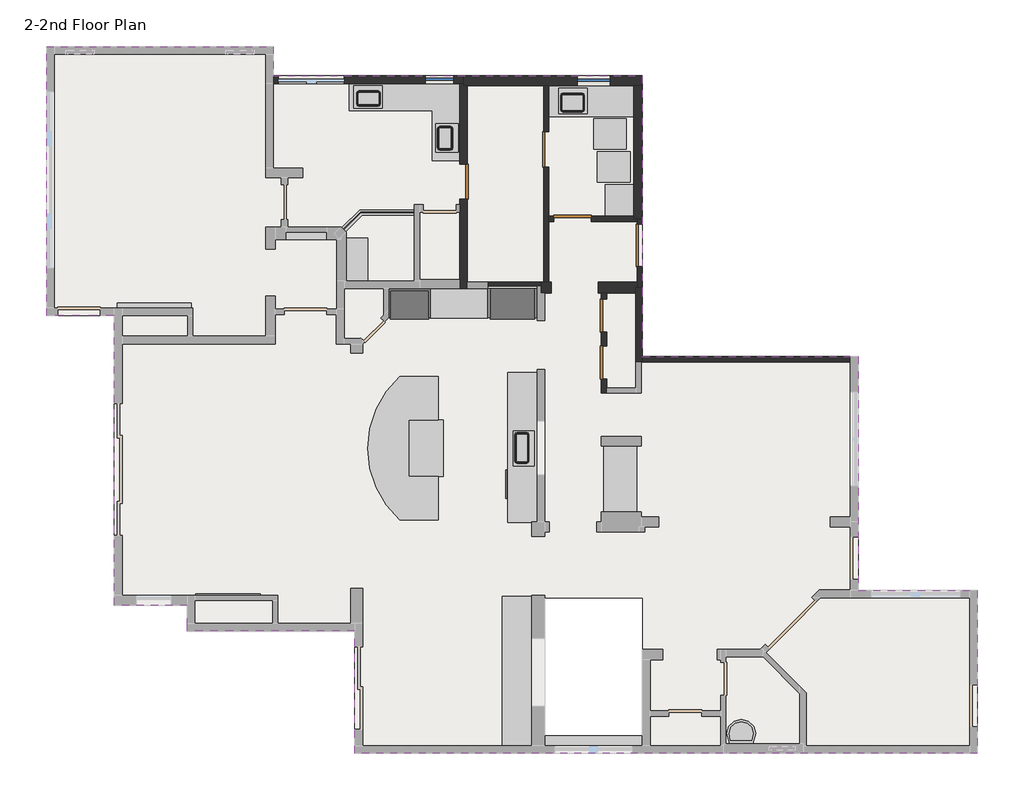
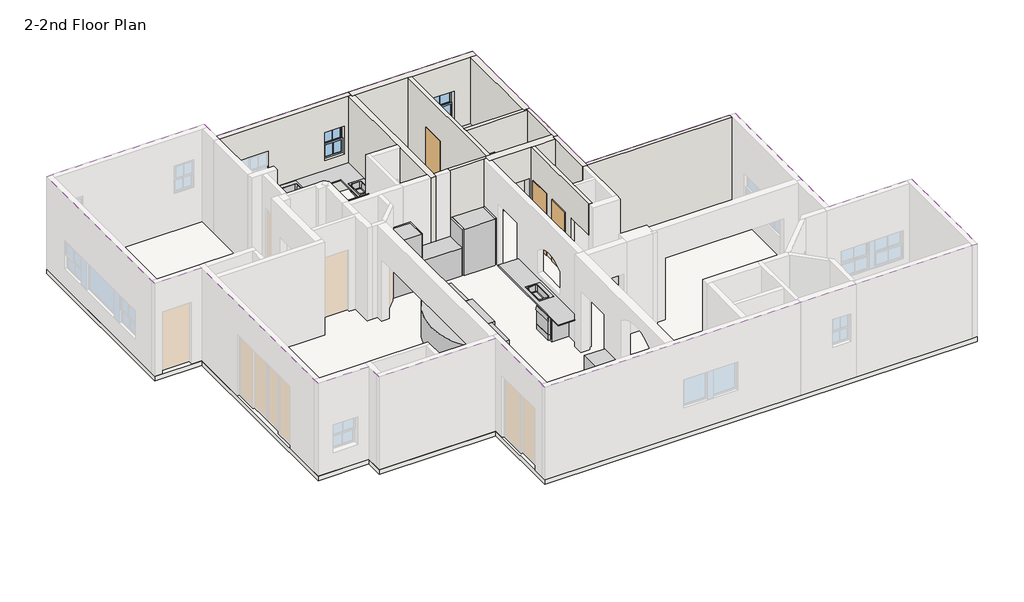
# One storey, part 3 of 3: 12 proxies, 12 walls, 10 furniture elements, 6 doors, 6 flow terminals, 2 windows, 1 covering, 1 slab.
"""IFC4 building model written with IfcOpenShell, lengths in millimetres."""

from ifc_helpers import new_model, si_unit, frame, origin, place, context, project, spatial, polyline, outline, extrude, faceted_brep, transform, mapped, element, save
from components import generic_models_10_generic_models_10_4ac16e84, generic_models_3_generic_models_3_54da6a1e, generic_models_4_generic_models_4_86da2cf7, generic_models_6_generic_models_6_da21bc6a, generic_models_7_generic_models_7_cedf5fbd, generic_models_8_generic_models_8_85dfdc42, generic_models_9_generic_models_6_f3774412, specialty_equipment_1_specialty_equipment_1_6cf6217c, specialty_equipment_3_specialty_equipment_3_975726c7, specialty_equipment_4_specialty_equipment_4_003a8ce4, specialty_equipment_6_specialty_equipment_5_ca1720f7, door_64bc458f, door_ae451de5, door_50b9832b, door_c53031d2, door_eaf6c470, flow_terminal_c128aac0, c_kitchen_sink_single_c_kitchen_sink_single_6c047c32, c_kitchen_sink_single_c_kitchen_sink_single_3_226f43ff, c_kitchen_sink_single_c_kitchen_sink_single_4_a6143ec4, plumbing_fixtures_1_plumbing_fixtures_1_25a78d79, casework_11_casework_11_a0dce881, casework_2_casework_2_51e8f1bf, casework_3_casework_3_68b1cbf8, casework_6_casework_6_0ef7add9, casework_7_casework_7_954245c9, casework_8_casework_8_02e97182, casework_9_casework_9_592b6bdc, window_5398d301, window_f0850236

model = new_model("IFC4")

# Units and contexts
model_context = context("Model", 3, world=origin())
ifc_project = project(units=[si_unit("LENGTHUNIT", "METRE", prefix="MILLI")], contexts=[model_context])

# Site, building, storey
site = spatial("IfcSite", under=ifc_project)
building = spatial("IfcBuilding", under=site)
storey = spatial("IfcBuildingStorey", under=building, Name="2-2nd Floor Plan", Elevation=3348.0)

# Proxies
placement = place(None, origin())
generic_models_10_generic_models_10_shape = generic_models_10_generic_models_10_4ac16e84(model_context)
element("IfcBuildingElementProxy", 1, Name="Generic Models 10 : Generic Models 10", ObjectType="Generic Models 10 : Generic Models 10", at=placement, inside=storey, context=model_context, shape_type="MappedRepresentation", body=[
    mapped(generic_models_10_generic_models_10_shape, transform((0.0, 0.0, 0.0), x_axis=(1.0, 0.0, 0.0), y_axis=(0.0, 1.0, 0.0), z_axis=(0.0, 0.0, 1.0))),
])
generic_models_3_generic_models_3_shape = generic_models_3_generic_models_3_54da6a1e(model_context)
element("IfcBuildingElementProxy", 2, Name="Generic Models 3 : Generic Models 3", ObjectType="Generic Models 3 : Generic Models 3", at=placement, inside=storey, context=model_context, shape_type="MappedRepresentation", body=[
    mapped(generic_models_3_generic_models_3_shape, transform((0.0, 0.0, 0.0), x_axis=(1.0, 0.0, 0.0), y_axis=(0.0, 1.0, 0.0), z_axis=(0.0, 0.0, 1.0))),
])
generic_models_4_generic_models_4_shape = generic_models_4_generic_models_4_86da2cf7(model_context)
element("IfcBuildingElementProxy", 3, Name="Generic Models 4 : Generic Models 4", ObjectType="Generic Models 4 : Generic Models 4", at=placement, inside=storey, context=model_context, shape_type="MappedRepresentation", body=[
    mapped(generic_models_4_generic_models_4_shape, transform((0.0, 0.0, 0.0), x_axis=(1.0, 0.0, 0.0), y_axis=(0.0, 1.0, 0.0), z_axis=(0.0, 0.0, 1.0))),
])
generic_models_6_generic_models_6_shape = generic_models_6_generic_models_6_da21bc6a(model_context)
element("IfcBuildingElementProxy", 4, Name="Generic Models 6 : Generic Models 6", ObjectType="Generic Models 6 : Generic Models 6", at=placement, inside=storey, context=model_context, shape_type="MappedRepresentation", body=[
    mapped(generic_models_6_generic_models_6_shape, transform((0.0, 0.0, 0.0), x_axis=(1.0, 0.0, 0.0), y_axis=(0.0, 1.0, 0.0), z_axis=(0.0, 0.0, 1.0))),
])
generic_models_7_generic_models_7_shape = generic_models_7_generic_models_7_cedf5fbd(model_context)
element("IfcBuildingElementProxy", 5, Name="Generic Models 7 : Generic Models 7", ObjectType="Generic Models 7 : Generic Models 7", at=placement, inside=storey, context=model_context, shape_type="MappedRepresentation", body=[
    mapped(generic_models_7_generic_models_7_shape, transform((0.0, 0.0, 0.0), x_axis=(1.0, 0.0, 0.0), y_axis=(0.0, 1.0, 0.0), z_axis=(0.0, 0.0, 1.0))),
])
generic_models_8_generic_models_8_shape = generic_models_8_generic_models_8_85dfdc42(model_context)
element("IfcBuildingElementProxy", 6, Name="Generic Models 8 : Generic Models 8", ObjectType="Generic Models 8 : Generic Models 8", at=placement, inside=storey, context=model_context, shape_type="MappedRepresentation", body=[
    mapped(generic_models_8_generic_models_8_shape, transform((0.0, 0.0, 0.0), x_axis=(1.0, 0.0, 0.0), y_axis=(0.0, 1.0, 0.0), z_axis=(0.0, 0.0, 1.0))),
])
generic_models_9_generic_models_6_shape = generic_models_9_generic_models_6_f3774412(model_context)
element("IfcBuildingElementProxy", 7, Name="Generic Models 9 : Generic Models 6", ObjectType="Generic Models 9 : Generic Models 6", at=placement, inside=storey, context=model_context, shape_type="MappedRepresentation", body=[
    mapped(generic_models_9_generic_models_6_shape, transform((0.0, 0.0, 0.0), x_axis=(1.0, 0.0, 0.0), y_axis=(0.0, 1.0, 0.0), z_axis=(0.0, 0.0, 1.0))),
])
specialty_equipment_1_specialty_equipment_1_shape = specialty_equipment_1_specialty_equipment_1_6cf6217c(model_context)
element("IfcBuildingElementProxy", 8, Name="Specialty Equipment 1 : Specialty Equipment 1", ObjectType="Specialty Equipment 1 : Specialty Equipment 1", at=placement, inside=storey, context=model_context, shape_type="MappedRepresentation", body=[
    mapped(specialty_equipment_1_specialty_equipment_1_shape, transform((0.0, 0.0, 0.0), x_axis=(1.0, 0.0, 0.0), y_axis=(0.0, 1.0, 0.0), z_axis=(0.0, 0.0, 1.0))),
])
element("IfcBuildingElementProxy", 9, Name="Specialty Equipment 2 : Specialty Equipment 1", ObjectType="Specialty Equipment 2 : Specialty Equipment 1", at=placement, inside=storey, context=model_context, shape_type="MappedRepresentation", body=[
    mapped(specialty_equipment_1_specialty_equipment_1_shape, transform((76.2, -711.1999987, 0.0), x_axis=(1.0, 0.0, 0.0), y_axis=(0.0, 1.0, 0.0), z_axis=(0.0, 0.0, 1.0))),
])
specialty_equipment_3_specialty_equipment_3_shape = specialty_equipment_3_specialty_equipment_3_975726c7(model_context)
element("IfcBuildingElementProxy", 10, Name="Specialty Equipment 3 : Specialty Equipment 3", ObjectType="Specialty Equipment 3 : Specialty Equipment 3", at=placement, inside=storey, context=model_context, shape_type="MappedRepresentation", body=[
    mapped(specialty_equipment_3_specialty_equipment_3_shape, transform((0.0, 0.0, 0.0), x_axis=(1.0, 0.0, 0.0), y_axis=(0.0, 1.0, 0.0), z_axis=(0.0, 0.0, 1.0))),
])
specialty_equipment_4_specialty_equipment_4_shape = specialty_equipment_4_specialty_equipment_4_003a8ce4(model_context)
element("IfcBuildingElementProxy", 11, Name="Specialty Equipment 4 : Specialty Equipment 4", ObjectType="Specialty Equipment 4 : Specialty Equipment 4", at=placement, inside=storey, context=model_context, shape_type="MappedRepresentation", body=[
    mapped(specialty_equipment_4_specialty_equipment_4_shape, transform((0.0, 0.0, 0.0), x_axis=(1.0, 0.0, 0.0), y_axis=(0.0, 1.0, 0.0), z_axis=(0.0, 0.0, 1.0))),
])
specialty_equipment_6_specialty_equipment_5_shape = specialty_equipment_6_specialty_equipment_5_ca1720f7(model_context)
element("IfcBuildingElementProxy", 12, Name="Specialty Equipment 6 : Specialty Equipment 5", ObjectType="Specialty Equipment 6 : Specialty Equipment 5", at=placement, inside=storey, context=model_context, shape_type="MappedRepresentation", body=[
    mapped(specialty_equipment_6_specialty_equipment_5_shape, transform((0.0, 0.0, 0.0), x_axis=(1.0, 0.0, 0.0), y_axis=(0.0, 1.0, 0.0), z_axis=(0.0, 0.0, 1.0))),
])

# Covering
element("IfcCovering", 13, ObjectType="Ceiling_5.9\"", at=placement, inside=storey, context=model_context, shape_type="SweptSolid", body=[
    extrude(outline(polyline([(-6661.15, 9461.5), (-6661.15, 15278.1), (-1758.95, 15278.1), (-1758.95, 14642.9947939), (6210.3, 14642.9947939), (6210.3, 10064.6447939), (6210.3, 8572.5), (10871.2, 8572.5), (10871.2, 3524.25), (13449.3, 3524.25), (13449.3, 0.0), (0.0, 0.0), (0.0, 2641.6), (-3619.5, 2641.6), (-3619.5, 3200.4), (-5194.3, 3200.4), (-5194.3, 9461.5), (-6661.15, 9461.5)])), frame((0.0, 0.0, 6396.0), z_axis=(0.0, 0.0, 1.0), x_axis=(1.0, 0.0, 0.0)), (0.0, 0.0, 1.0), 150.0),
])

# Doors
door_shape = door_64bc458f(model_context)
element("IfcDoor", 14, ObjectType="Door_1 : 2'-4\" X 6'-8\"", at=placement, inside=storey, context=model_context, shape_type="MappedRepresentation", body=[
    mapped(door_shape, transform((5378.45, 9461.3947939, 3348.0), x_axis=(0.0, -1.0, 0.0), y_axis=(1.0, 0.0, 0.0), z_axis=(0.0, 0.0, 1.0))),
])
element("IfcDoor", 15, ObjectType="Door_1 : 2'-4\" X 6'-8\"", at=placement, inside=storey, context=model_context, shape_type="MappedRepresentation", body=[
    mapped(door_shape, transform((5378.45, 8445.3947939, 3348.0), x_axis=(0.0, -1.0, 0.0), y_axis=(1.0, 0.0, 0.0), z_axis=(0.0, 0.0, 1.0))),
])
door_2_shape = door_ae451de5(model_context)
element("IfcDoor", 16, ObjectType="Door_1 : 2'-6\" X 6'-8\"", at=placement, inside=storey, context=model_context, shape_type="MappedRepresentation", body=[
    mapped(door_2_shape, transform((4133.85, 13055.4947939, 3348.0), x_axis=(0.0, 1.0, 0.0), y_axis=(-1.0, 0.0, 0.0), z_axis=(0.0, 0.0, 1.0))),
])
door_3_shape = door_50b9832b(model_context)
element("IfcDoor", 17, ObjectType="Door_1 : 2'-6\" X 6'-8\"", at=placement, inside=storey, context=model_context, shape_type="MappedRepresentation", body=[
    mapped(door_3_shape, transform((2343.15, 12356.9947939, 3348.0), x_axis=(0.0, -1.0, 0.0), y_axis=(1.0, 0.0, 0.0), z_axis=(0.0, 0.0, 1.0))),
])
door_4_shape = door_c53031d2(model_context)
element("IfcDoor", 18, ObjectType="Door_1 : 2'-8\" X 6'-8\"", at=placement, inside=storey, context=model_context, shape_type="MappedRepresentation", body=[
    mapped(door_4_shape, transform((4699.0, 11550.5447939, 3348.0), x_axis=(-1.0, 0.0, 0.0), y_axis=(0.0, -1.0, 0.0), z_axis=(0.0, 0.0, 1.0))),
])
door_5_shape = door_eaf6c470(model_context)
element("IfcDoor", 19, ObjectType="Door_1 : 3'-0\" X 6'-8\"", at=placement, inside=storey, context=model_context, shape_type="MappedRepresentation", body=[
    mapped(door_5_shape, transform((6153.15, 10979.0447939, 3348.0), x_axis=(0.0, 1.0, 0.0), y_axis=(-1.0, 0.0, 0.0), z_axis=(0.0, 0.0, 1.0))),
])

# Flow terminals
flow_terminal_shape = flow_terminal_c128aac0(model_context)
element("IfcFlowTerminal", 20, ObjectType="C_Dishwasher : 24\"x25 1/4\"", at=placement, inside=storey, context=model_context, shape_type="MappedRepresentation", body=[
    mapped(flow_terminal_shape, transform((3937.0, 5818.0822939, 3348.0), x_axis=(-1.0, 0.0, 0.0), y_axis=(0.0, -1.0, 0.0), z_axis=(0.0, 0.0, 1.0))),
])
c_kitchen_sink_single_c_kitchen_sink_single_shape = c_kitchen_sink_single_c_kitchen_sink_single_6c047c32(model_context)
element("IfcFlowTerminal", 21, ObjectType="C_Kitchen Sink Single : C_Kitchen Sink Single", at=placement, inside=storey, context=model_context, shape_type="MappedRepresentation", body=[
    mapped(c_kitchen_sink_single_c_kitchen_sink_single_shape, transform((34.5408031, 14189.7993928, 4211.6), x_axis=(-1.0, 0.0, 0.0), y_axis=(0.0, -1.0, 0.0), z_axis=(0.0, 0.0, 1.0))),
])
element("IfcFlowTerminal", 22, ObjectType="C_Kitchen Sink Single : C_Kitchen Sink Single", at=placement, inside=storey, context=model_context, shape_type="MappedRepresentation", body=[
    mapped(c_kitchen_sink_single_c_kitchen_sink_single_shape, transform((1985.2045989, 13555.1477408, 4211.6), x_axis=(0.0, 1.0, 0.0), y_axis=(-1.0, 0.0, 0.0), z_axis=(0.0, 0.0, 1.0))),
])
c_kitchen_sink_single_c_kitchen_sink_single_3_shape = c_kitchen_sink_single_c_kitchen_sink_single_3_226f43ff(model_context)
element("IfcFlowTerminal", 23, ObjectType="C_Kitchen Sink Single : C_Kitchen Sink Single 3", at=placement, inside=storey, context=model_context, shape_type="MappedRepresentation", body=[
    mapped(c_kitchen_sink_single_c_kitchen_sink_single_3_shape, transform((3642.5545989, 6263.9840344, 4249.7), x_axis=(0.0, -1.0, 0.0), y_axis=(1.0, 0.0, 0.0), z_axis=(0.0, 0.0, 1.0))),
])
c_kitchen_sink_single_c_kitchen_sink_single_4_shape = c_kitchen_sink_single_c_kitchen_sink_single_4_a6143ec4(model_context)
element("IfcFlowTerminal", 24, ObjectType="C_Kitchen Sink Single : C_Kitchen Sink Single 4", at=placement, inside=storey, context=model_context, shape_type="MappedRepresentation", body=[
    mapped(c_kitchen_sink_single_c_kitchen_sink_single_4_shape, transform((4962.7107594, 14100.8993928, 4198.9), x_axis=(1.0, 0.0, 0.0), y_axis=(0.0, 1.0, 0.0), z_axis=(0.0, 0.0, 1.0))),
])
plumbing_fixtures_1_plumbing_fixtures_1_shape = plumbing_fixtures_1_plumbing_fixtures_1_25a78d79(model_context)
element("IfcFlowTerminal", 25, ObjectType="Plumbing Fixtures 1 : Plumbing Fixtures 1", at=placement, inside=storey, context=model_context, shape_type="MappedRepresentation", body=[
    mapped(plumbing_fixtures_1_plumbing_fixtures_1_shape, transform((0.0, 0.0, 0.0), x_axis=(1.0, 0.0, 0.0), y_axis=(0.0, 1.0, 0.0), z_axis=(0.0, 0.0, 1.0))),
])

# Furniture
element("IfcFurniture", 26, ObjectType="C_Counter Top L : Counter Top", at=placement, inside=storey, context=model_context, shape_type="SweptSolid", body=[
    extrude(outline(polyline([(2260.6, 12814.1947939), (1676.4, 12814.1947939), (1676.4, 13893.6947939), (-127.0, 13893.6947939), (-127.0, 14477.8947939), (2260.6, 14477.8947939), (2260.6, 12814.1947939)]), holes=[polyline([(590.3515625, 14433.4447939), (-19.2484375, 14433.4447939), (-19.2484375, 13950.8447939), (590.3515625, 13950.8447939), (590.3515625, 14433.4447939)]), polyline([(2228.85, 12999.3369814), (2228.85, 13608.9369814), (1746.25, 13608.9369814), (1746.25, 12999.3369814), (2228.85, 12999.3369814)])]), frame((0.0, 0.0, 4186.2), z_axis=(0.0, 0.0, 1.0), x_axis=(1.0, 0.0, 0.0)), (0.0, 0.0, 1.0), 25.4),
])
element("IfcFurniture", 27, ObjectType="C_Counter Top Linear (without skirting) : C_Counter Top Linear (without skirting)", at=placement, inside=storey, context=model_context, shape_type="SweptSolid", body=[
    extrude(outline(polyline([(4191.0, 14427.0947939), (6019.8, 14427.0947939), (6019.8, 13766.6947939), (4191.0, 13766.6947939), (4191.0, 14427.0947939)]), holes=[polyline([(5016.5, 14382.6447939), (4406.9, 14382.6447939), (4406.9, 13823.8447939), (5016.5, 13823.8447939), (5016.5, 14382.6447939)])]), frame((0.0, 0.0, 4173.5), z_axis=(0.0, 0.0, 1.0), x_axis=(1.0, 0.0, 0.0)), (0.0, 0.0, 1.0), 38.1),
])
element("IfcFurniture", 28, ObjectType="C_Counter Top Linear (without skirting)_1 : C_Counter Top Linear (without skirting)", at=placement, inside=storey, context=model_context, shape_type="SweptSolid", body=[
    extrude(outline(polyline([(3302.0, 4990.9947939), (3302.0, 8229.4947939), (3937.0, 8229.4947939), (3937.0, 5003.6947939), (3822.7, 5003.6947939), (3822.7, 4990.9947939), (3302.0, 4990.9947939)]), holes=[polyline([(3873.5, 6210.1947939), (3873.5, 6972.1947939), (3416.3, 6972.1947939), (3416.3, 6210.1947939), (3873.5, 6210.1947939)])]), frame((0.0, 0.0, 4224.3), z_axis=(0.0, 0.0, 1.0), x_axis=(1.0, 0.0, 0.0)), (0.0, 0.0, 1.0), 38.1),
])
casework_11_casework_11_shape = casework_11_casework_11_a0dce881(model_context)
element("IfcFurniture", 29, ObjectType="Casework 11 : Casework 11", at=placement, inside=storey, context=model_context, shape_type="MappedRepresentation", body=[
    mapped(casework_11_casework_11_shape, transform((0.0, 0.0, 0.0), x_axis=(1.0, 0.0, 0.0), y_axis=(0.0, 1.0, 0.0), z_axis=(0.0, 0.0, 1.0))),
])
casework_2_casework_2_shape = casework_2_casework_2_51e8f1bf(model_context)
element("IfcFurniture", 30, ObjectType="Casework 2 : Casework 2", at=placement, inside=storey, context=model_context, shape_type="MappedRepresentation", body=[
    mapped(casework_2_casework_2_shape, transform((0.0, 0.0, 0.0), x_axis=(1.0, 0.0, 0.0), y_axis=(0.0, 1.0, 0.0), z_axis=(0.0, 0.0, 1.0))),
])
casework_3_casework_3_shape = casework_3_casework_3_68b1cbf8(model_context)
element("IfcFurniture", 31, ObjectType="Casework 3 : Casework 3", at=placement, inside=storey, context=model_context, shape_type="MappedRepresentation", body=[
    mapped(casework_3_casework_3_shape, transform((0.0, 0.0, 0.0), x_axis=(1.0, 0.0, 0.0), y_axis=(0.0, 1.0, 0.0), z_axis=(0.0, 0.0, 1.0))),
])
casework_6_casework_6_shape = casework_6_casework_6_0ef7add9(model_context)
element("IfcFurniture", 32, ObjectType="Casework 6 : Casework 6", at=placement, inside=storey, context=model_context, shape_type="MappedRepresentation", body=[
    mapped(casework_6_casework_6_shape, transform((0.0, 0.0, 0.0), x_axis=(1.0, 0.0, 0.0), y_axis=(0.0, 1.0, 0.0), z_axis=(0.0, 0.0, 1.0))),
])
casework_7_casework_7_shape = casework_7_casework_7_954245c9(model_context)
element("IfcFurniture", 33, ObjectType="Casework 7 : Casework 7", at=placement, inside=storey, context=model_context, shape_type="MappedRepresentation", body=[
    mapped(casework_7_casework_7_shape, transform((0.0, 0.0, 0.0), x_axis=(1.0, 0.0, 0.0), y_axis=(0.0, 1.0, 0.0), z_axis=(0.0, 0.0, 1.0))),
])
casework_8_casework_8_shape = casework_8_casework_8_02e97182(model_context)
element("IfcFurniture", 34, ObjectType="Casework 8 : Casework 8", at=placement, inside=storey, context=model_context, shape_type="MappedRepresentation", body=[
    mapped(casework_8_casework_8_shape, transform((0.0, 0.0, 0.0), x_axis=(1.0, 0.0, 0.0), y_axis=(0.0, 1.0, 0.0), z_axis=(0.0, 0.0, 1.0))),
])
casework_9_casework_9_shape = casework_9_casework_9_592b6bdc(model_context)
element("IfcFurniture", 35, ObjectType="Casework 9 : Casework 9", at=placement, inside=storey, context=model_context, shape_type="MappedRepresentation", body=[
    mapped(casework_9_casework_9_shape, transform((0.0, 0.0, 0.0), x_axis=(1.0, 0.0, 0.0), y_axis=(0.0, 1.0, 0.0), z_axis=(0.0, 0.0, 1.0))),
])

# Slab
element("IfcSlab", 36, ObjectType="Floor:Floor_5.9\"", at=placement, inside=storey, context=model_context, shape_type="SweptSolid", body=[
    extrude(outline(polyline([(-6661.15, 9461.5), (-6661.15, 15278.1), (-1758.95, 15278.1), (-1758.95, 14642.9947939), (6210.3, 14642.9947939), (6210.3, 10064.6447939), (6210.3, 8572.5), (10871.2, 8572.5), (10871.2, 3524.25), (13449.3, 3524.25), (13449.3, 0.0), (0.0, 0.0), (0.0, 2641.6), (-3619.5, 2641.6), (-3619.5, 3200.4), (-5194.3, 3200.4), (-5194.3, 9461.5), (-6661.15, 9461.5)]), holes=[polyline([(4102.1, 3352.8), (4102.1, 165.1), (6210.3, 165.1), (6210.3, 3352.8), (4102.1, 3352.8)])]), frame((0.0, 0.0, 3197.98125), z_axis=(0.0, 0.0, 1.0), x_axis=(1.0, 0.0, 0.0)), (0.0, 0.0, 1.0), 150.01875),
])

# Walls
element("IfcWall", 37, ObjectType="Wall_3.5\"", at=placement, inside=storey, context=model_context, shape_type="Brep", body=[
    faceted_brep([(2870.2, 10096.5, 3348.0), (3937.0, 10096.5, 3348.0), (4019.55, 10096.5, 3348.0), (4019.55, 10096.5, 6396.0), (3937.0, 10096.5, 6396.0), (2870.2, 10096.5, 6396.0), (2870.2, 10185.4, 3348.0), (2870.2, 10185.4, 6396.0), (4019.55, 10185.4, 6396.0), (4019.55, 10185.4, 3348.0)], [[[0, 1, 2, 3, 4, 5]], [[6, 7, 8, 9]], [[2, 1, 0, 6, 9]], [[3, 2, 9, 8]], [[5, 4, 3, 8, 7]], [[0, 5, 7, 6]]]),
])
element("IfcWall", 38, ObjectType="Wall_4.5\"", at=placement, inside=storey, context=model_context, shape_type="Brep", body=[
    faceted_brep([(6096.0, 11550.5447939, 3348.0), (6096.0, 11493.3947939, 3348.0), (6096.0, 11436.2447939, 3348.0), (6096.0, 11436.2447939, 5380.0), (6096.0, 10521.8447939, 5380.0), (6096.0, 10521.8447939, 3348.0), (6096.0, 10185.2947939, 3348.0), (6096.0, 10064.6447939, 3348.0), (6096.0, 10064.6447939, 6396.0), (6096.0, 10185.2947939, 6396.0), (6096.0, 11493.3947939, 6396.0), (6096.0, 11550.5447939, 6396.0), (6210.3, 11436.2447939, 5380.0), (6210.3, 11436.2447939, 3348.0), (6210.3, 11550.5447939, 3348.0), (6210.3, 11550.5447939, 6396.0), (6210.3, 10064.6447939, 6396.0), (6210.3, 10064.6447939, 3348.0), (6210.3, 10521.8447939, 3348.0), (6210.3, 10521.8447939, 5380.0)], [[[0, 1, 2, 3, 4, 5, 6, 7, 8, 9, 10, 11]], [[12, 13, 14, 15, 16, 17, 18, 19]], [[18, 17, 7, 6, 5]], [[14, 13, 2, 1, 0]], [[8, 7, 17, 16]], [[11, 10, 9, 8, 16, 15]], [[0, 11, 15, 14]], [[3, 2, 13, 12]], [[4, 3, 12, 19]], [[5, 4, 19, 18]]]),
])
element("IfcWall", 39, ObjectType="Wall_4.5\"", at=placement, inside=storey, context=model_context, shape_type="SweptSolid", body=[
    extrude(outline(polyline([(6210.3, 8572.5), (10706.1, 8572.5), (10706.1, 8458.2), (6210.3, 8458.2), (6210.3, 8572.5)])), frame((0.0, 0.0, 3348.0), z_axis=(0.0, 0.0, 1.0), x_axis=(1.0, 0.0, 0.0)), (0.0, 0.0, 1.0), 3048.0),
])
element("IfcWall", 40, ObjectType="Wall_4.5\"", at=placement, inside=storey, context=model_context, shape_type="Brep", body=[
    faceted_brep([(4076.7, 14427.0947939, 3348.0), (4076.7, 13436.4947939, 3348.0), (4076.7, 13436.4947939, 5380.0), (4076.7, 12674.4947939, 5380.0), (4076.7, 12674.4947939, 3348.0), (4076.7, 10185.2947939, 3348.0), (4076.7, 10185.2947939, 6396.0), (4076.7, 14427.0947939, 6396.0), (4191.0, 13436.4947939, 5380.0), (4191.0, 13436.4947939, 3348.0), (4191.0, 14427.0947939, 3348.0), (4191.0, 14427.0947939, 6396.0), (4191.0, 11607.6947939, 6396.0), (4191.0, 11493.3947939, 6396.0), (4191.0, 10185.2947939, 6396.0), (4191.0, 10185.2947939, 3348.0), (4191.0, 11493.3947939, 3348.0), (4191.0, 11607.6947939, 3348.0), (4191.0, 12674.4947939, 3348.0), (4191.0, 12674.4947939, 5380.0)], [[[0, 1, 2, 3, 4, 5, 6, 7]], [[8, 9, 10, 11, 12, 13, 14, 15, 16, 17, 18, 19]], [[10, 9, 1, 0]], [[18, 17, 16, 15, 5, 4]], [[7, 6, 14, 13, 12, 11]], [[0, 7, 11, 10]], [[2, 1, 9, 8]], [[3, 2, 8, 19]], [[4, 3, 19, 18]], [[6, 5, 15, 14]]]),
])
element("IfcWall", 41, ObjectType="Wall_4.5\"", at=placement, inside=storey, context=model_context, shape_type="Brep", body=[
    faceted_brep([(4292.6, 11607.6947939, 5380.0), (4292.6, 11607.6947939, 3348.0), (4191.0, 11607.6947939, 3348.0), (4191.0, 11607.6947939, 6396.0), (6019.8, 11607.6947939, 6396.0), (6019.8, 11607.6947939, 3348.0), (5105.4, 11607.6947939, 3348.0), (5105.4, 11607.6947939, 5380.0), (4191.0, 11493.3947939, 3348.0), (4292.6, 11493.3947939, 3348.0), (4292.6, 11493.3947939, 5380.0), (5105.4, 11493.3947939, 5380.0), (5105.4, 11493.3947939, 3348.0), (6096.0, 11493.3947939, 3348.0), (6096.0, 11493.3947939, 6396.0), (4191.0, 11493.3947939, 6396.0), (6019.8, 11550.5447939, 3348.0), (6096.0, 11550.5447939, 3348.0), (6096.0, 11550.5447939, 6396.0), (6019.8, 11550.5447939, 6396.0)], [[[0, 1, 2, 3, 4, 5, 6, 7]], [[8, 9, 10, 11, 12, 13, 14, 15]], [[6, 5, 16, 17, 13, 12]], [[2, 1, 9, 8]], [[4, 3, 15, 14, 18, 19]], [[5, 4, 19, 16]], [[19, 18, 17, 16]], [[18, 14, 13, 17]], [[3, 2, 8, 15]], [[10, 9, 1, 0]], [[11, 10, 0, 7]], [[12, 11, 7, 6]]]),
])
element("IfcWall", 42, ObjectType="Wall_4.5\"", at=placement, inside=storey, context=model_context, shape_type="Brep", body=[
    faceted_brep([(5435.6, 9943.9947939, 6396.0), (5435.6, 7899.2947939, 6396.0), (5435.6, 7784.9947939, 6396.0), (5435.6, 6845.1947939, 6396.0), (5435.6, 6845.1947939, 5380.0), (5435.6, 7784.9947939, 5380.0), (5435.6, 7784.9947939, 3348.0), (5435.6, 7899.2947939, 3348.0), (5435.6, 8089.7947939, 3348.0), (5435.6, 8089.7947939, 5380.0), (5435.6, 8800.9947939, 5380.0), (5435.6, 8800.9947939, 3348.0), (5435.6, 9105.7947939, 3348.0), (5435.6, 9105.7947939, 5380.0), (5435.6, 9816.9947939, 5380.0), (5435.6, 9816.9947939, 3348.0), (5435.6, 9943.9947939, 3348.0), (5321.3, 6845.1947939, 6396.0), (5321.3, 9943.9947939, 6396.0), (5321.3, 9943.9947939, 3348.0), (5321.3, 9816.9947939, 3348.0), (5321.3, 9816.9947939, 5380.0), (5321.3, 9105.7947939, 5380.0), (5321.3, 9105.7947939, 3348.0), (5321.3, 8800.9947939, 3348.0), (5321.3, 8800.9947939, 5380.0), (5321.3, 8089.7947939, 5380.0), (5321.3, 8089.7947939, 3348.0), (5321.3, 7784.9947939, 3348.0), (5321.3, 7784.9947939, 5380.0), (5321.3, 6845.1947939, 5380.0)], [[[0, 1, 2, 3, 4, 5, 6, 7, 8, 9, 10, 11, 12, 13, 14, 15, 16]], [[17, 18, 19, 20, 21, 22, 23, 24, 25, 26, 27, 28, 29, 30]], [[19, 16, 15, 20]], [[23, 12, 11, 24]], [[27, 8, 7, 6, 28]], [[3, 2, 1, 0, 18, 17]], [[0, 16, 19, 18]], [[15, 14, 21, 20]], [[14, 13, 22, 21]], [[13, 12, 23, 22]], [[11, 10, 25, 24]], [[10, 9, 26, 25]], [[9, 8, 27, 26]], [[3, 17, 30, 4]], [[29, 5, 4, 30]], [[5, 29, 28, 6]]]),
])
element("IfcWall", 43, ObjectType="Wall_5.5\"", at=placement, inside=storey, context=model_context, shape_type="Brep", body=[
    faceted_brep([(6070.6, 10064.6447939, 3348.0), (6070.6, 9943.9947939, 3348.0), (6070.6, 8458.2, 3348.0), (6070.6, 8458.2, 6396.0), (6070.6, 9943.9947939, 6396.0), (6070.6, 10064.6447939, 6396.0), (6210.3, 10064.6447939, 3348.0), (6210.3, 10064.6447939, 6396.0), (6210.3, 8572.5, 6396.0), (6210.3, 8458.2, 6396.0), (6210.3, 8458.2, 3348.0), (6210.3, 8572.5, 3348.0), (6096.0, 10064.6447939, 3348.0), (6184.8999991, 8458.2, 3348.0), (6184.8999991, 8458.2, 6396.0), (6096.0, 10064.6447939, 6396.0)], [[[0, 1, 2, 3, 4, 5]], [[6, 7, 8, 9, 10, 11]], [[2, 1, 0, 12, 6, 11, 10, 13]], [[5, 4, 3, 14, 9, 8, 7, 15]], [[0, 5, 15, 7, 6, 12]], [[3, 2, 13, 10, 9, 14]]]),
])
element("IfcWall", 44, ObjectType="Wall_6.5\"", at=placement, inside=storey, context=model_context, shape_type="Brep", body=[
    faceted_brep([(-1758.95, 14477.8947939, 3348.0), (2260.6, 14477.8947939, 3348.0), (2343.15, 14477.8947939, 3348.0), (2343.15, 14477.8947939, 6396.0), (2260.6, 14477.8947939, 6396.0), (-1758.95, 14477.8947939, 6396.0), (1524.0, 14477.8947939, 5456.2), (2133.6, 14477.8947939, 5456.2), (2133.6, 14477.8947939, 4541.8), (1524.0, 14477.8947939, 4541.8), (-1651.0, 14477.8947939, 5456.2), (-228.6, 14477.8947939, 5456.2), (-228.6, 14477.8947939, 4541.8), (-1651.0, 14477.8947939, 4541.8), (-1758.95, 14642.9947939, 3348.0), (-1758.95, 14642.9947939, 6396.0), (2343.15, 14642.9947939, 6396.0), (2343.15, 14642.9947939, 3348.0), (1524.0, 14642.9947939, 5456.2), (1524.0, 14642.9947939, 4541.8), (2133.6, 14642.9947939, 4541.8), (2133.6, 14642.9947939, 5456.2), (-1651.0, 14642.9947939, 5456.2), (-1651.0, 14642.9947939, 4541.8), (-228.6, 14642.9947939, 4541.8), (-228.6, 14642.9947939, 5456.2)], [[[0, 1, 2, 3, 4, 5], [6, 7, 8, 9], [10, 11, 12, 13]], [[14, 15, 16, 17], [18, 19, 20, 21], [22, 23, 24, 25]], [[2, 1, 0, 14, 17]], [[3, 2, 17, 16]], [[5, 4, 3, 16, 15]], [[0, 5, 15, 14]], [[19, 18, 6, 9]], [[20, 19, 9, 8]], [[21, 20, 8, 7]], [[18, 21, 7, 6]], [[23, 22, 10, 13]], [[24, 23, 13, 12]], [[25, 24, 12, 11]], [[22, 25, 11, 10]]]),
])
element("IfcWall", 45, ObjectType="Wall_6.5\"", at=placement, inside=storey, context=model_context, shape_type="Brep", body=[
    faceted_brep([(2425.7, 10045.7, 3348.0), (2425.7, 10185.4, 3348.0), (2425.7, 11975.9947939, 3348.0), (2425.7, 11975.9947939, 5380.0), (2425.7, 12737.9947939, 5380.0), (2425.7, 12737.9947939, 3348.0), (2425.7, 14427.0947939, 3348.0), (2425.7, 14427.0947939, 6396.0), (2425.7, 10185.4, 6396.0), (2425.7, 10045.7, 6396.0), (2260.6, 11975.9947939, 5380.0), (2260.6, 11975.9947939, 3348.0), (2260.6, 11861.6947939, 3348.0), (2260.6, 11696.5947939, 3348.0), (2260.6, 10236.2, 3348.0), (2260.6, 10045.7, 3348.0), (2260.6, 10045.7, 6396.0), (2260.6, 10236.2, 6396.0), (2260.6, 11696.5947939, 6396.0), (2260.6, 11861.6947939, 6396.0), (2260.6, 14477.8947939, 6396.0), (2260.6, 14477.8947939, 3348.0), (2260.6, 12737.9947939, 3348.0), (2260.6, 12737.9947939, 5380.0), (2343.15, 14477.8947939, 3348.0), (2343.15, 14427.0947939, 3348.0), (2343.15, 14427.0947939, 6396.0), (2343.15, 14477.8947939, 6396.0)], [[[0, 1, 2, 3, 4, 5, 6, 7, 8, 9]], [[10, 11, 12, 13, 14, 15, 16, 17, 18, 19, 20, 21, 22, 23]], [[22, 21, 24, 25, 6, 5]], [[15, 14, 13, 12, 11, 2, 1, 0]], [[9, 8, 7, 26, 27, 20, 19, 18, 17, 16]], [[0, 9, 16, 15]], [[7, 6, 25, 26]], [[25, 24, 27, 26]], [[24, 21, 20, 27]], [[3, 2, 11, 10]], [[4, 3, 10, 23]], [[5, 4, 23, 22]]]),
])
element("IfcWall", 46, ObjectType="Wall_7.5\"", at=placement, inside=storey, context=model_context, shape_type="Brep", body=[
    faceted_brep([(6019.8, 14427.0947939, 3348.0), (6019.8, 11607.6947939, 3348.0), (6019.8, 11550.5447939, 3348.0), (6019.8, 11550.5447939, 6396.0), (6019.8, 11607.6947939, 6396.0), (6019.8, 14427.0947939, 6396.0), (6019.8, 13449.1947939, 4364.0), (6019.8, 13652.3947939, 4364.0), (6019.8, 13652.3947939, 4516.4), (6019.8, 13449.1947939, 4516.4), (6210.3, 11550.5447939, 3348.0), (6210.3, 14427.0947939, 3348.0), (6210.3, 14427.0947939, 6396.0), (6210.3, 11550.5447939, 6396.0), (6096.0, 11550.5447939, 3348.0), (6096.0, 11550.5447939, 6396.0), (6096.0, 13449.1947939, 4364.0), (6096.0, 13652.3947939, 4364.0), (6096.0, 13652.3947939, 4516.4), (6096.0, 13449.1947939, 4516.4)], [[[0, 1, 2, 3, 4, 5], [6, 7, 8, 9]], [[10, 11, 12, 13]], [[2, 1, 0, 11, 10, 14]], [[3, 2, 14, 10, 13, 15]], [[5, 4, 3, 15, 13, 12]], [[0, 5, 12, 11]], [[6, 16, 17, 7]], [[8, 18, 19, 9]], [[16, 6, 9, 19]], [[17, 16, 19, 18]], [[7, 17, 18, 8]]]),
])
element("IfcWall", 47, ObjectType="Wall_8.5\"", at=placement, inside=storey, context=model_context, shape_type="Brep", body=[
    faceted_brep([(2343.15, 14427.0947939, 3348.0), (2425.7, 14427.0947939, 3348.0), (4076.7, 14427.0947939, 3348.0), (4191.0, 14427.0947939, 3348.0), (6019.8, 14427.0947939, 3348.0), (6210.3, 14427.0947939, 3348.0), (6210.3, 14427.0947939, 6396.0), (6019.8, 14427.0947939, 6396.0), (4191.0, 14427.0947939, 6396.0), (4076.7, 14427.0947939, 6396.0), (2425.7, 14427.0947939, 6396.0), (2343.15, 14427.0947939, 6396.0), (4800.6, 14427.0947939, 5456.2), (5511.8, 14427.0947939, 5456.2), (5511.8, 14427.0947939, 4541.8), (4800.6, 14427.0947939, 4541.8), (2343.15, 14642.9947939, 3348.0), (2343.15, 14642.9947939, 6396.0), (6210.3, 14642.9947939, 6396.0), (6210.3, 14642.9947939, 3348.0), (4800.6, 14642.9947939, 5456.2), (4800.6, 14642.9947939, 4541.8), (5511.8, 14642.9947939, 4541.8), (5511.8, 14642.9947939, 5456.2), (2343.15, 14477.8947939, 3348.0), (2343.15, 14477.8947939, 6396.0)], [[[0, 1, 2, 3, 4, 5, 6, 7, 8, 9, 10, 11], [12, 13, 14, 15]], [[16, 17, 18, 19], [20, 21, 22, 23]], [[5, 4, 3, 2, 1, 0, 24, 16, 19]], [[11, 10, 9, 8, 7, 6, 18, 17, 25]], [[0, 11, 25, 17, 16, 24]], [[6, 5, 19, 18]], [[21, 20, 12, 15]], [[22, 21, 15, 14]], [[23, 22, 14, 13]], [[20, 23, 13, 12]]]),
])
element("IfcWall", 48, ObjectType="Wall_9.5\"", at=placement, inside=storey, context=model_context, shape_type="Brep", body=[
    faceted_brep([(6096.0, 10185.2947939, 3348.0), (5257.8, 10185.2947939, 3348.0), (5257.8, 10185.2947939, 5380.0), (4241.8, 10185.2947939, 5380.0), (4241.8, 10185.2947939, 3348.0), (4191.0, 10185.2947939, 3348.0), (4076.7, 10185.2947939, 3348.0), (4019.55, 10185.2947939, 3348.0), (4019.55, 10185.2947939, 6396.0), (4076.7, 10185.2947939, 6396.0), (4191.0, 10185.2947939, 6396.0), (6096.0, 10185.2947939, 6396.0), (5257.8, 9943.9947939, 5380.0), (5257.8, 9943.9947939, 3348.0), (5321.3, 9943.9947939, 3348.0), (5435.6, 9943.9947939, 3348.0), (6070.6, 9943.9947939, 3348.0), (6070.6, 9943.9947939, 6396.0), (5435.6, 9943.9947939, 6396.0), (5321.3, 9943.9947939, 6396.0), (4102.1, 9943.9947939, 6396.0), (4019.55, 9943.9947939, 6396.0), (4019.55, 9943.9947939, 3348.0), (4102.1, 9943.9947939, 3348.0), (4241.8, 9943.9947939, 3348.0), (4241.8, 9943.9947939, 5380.0), (4019.55, 10096.5, 3348.0), (6096.0, 10064.6447939, 3348.0), (6070.6, 10064.6447939, 3348.0), (4019.55, 10096.5, 6396.0), (6070.6, 10064.6447939, 6396.0), (6096.0, 10064.6447939, 6396.0)], [[[0, 1, 2, 3, 4, 5, 6, 7, 8, 9, 10, 11]], [[12, 13, 14, 15, 16, 17, 18, 19, 20, 21, 22, 23, 24, 25]], [[24, 23, 22, 26, 7, 6, 5, 4]], [[16, 15, 14, 13, 1, 0, 27, 28]], [[8, 7, 26, 22, 21, 29]], [[11, 10, 9, 8, 29, 21, 20, 19, 18, 17, 30, 31]], [[0, 11, 31, 27]], [[31, 30, 28, 27]], [[30, 17, 16, 28]], [[2, 1, 13, 12]], [[4, 3, 25, 24]], [[3, 2, 12, 25]]]),
])

# Windows
window_shape = window_5398d301(model_context)
element("IfcWindow", 49, ObjectType="Window_4 : 2'-0\" x 3'-0\"", at=placement, inside=storey, context=model_context, shape_type="MappedRepresentation", body=[
    mapped(window_shape, transform((1828.8, 14560.4447939, 3703.6), x_axis=(-1.0, 0.0, 0.0), y_axis=(0.0, -1.0, 0.0), z_axis=(0.0, 0.0, 1.0))),
])
window_2_shape = window_f0850236(model_context)
element("IfcWindow", 50, ObjectType="Window_4 : 2'-4\" x 3'-0\"", at=placement, inside=storey, context=model_context, shape_type="MappedRepresentation", body=[
    mapped(window_2_shape, transform((5156.2, 14535.0447939, 3703.6), x_axis=(-1.0, 0.0, 0.0), y_axis=(0.0, -1.0, 0.0), z_axis=(0.0, 0.0, 1.0))),
])

save(model, "model.ifc")
